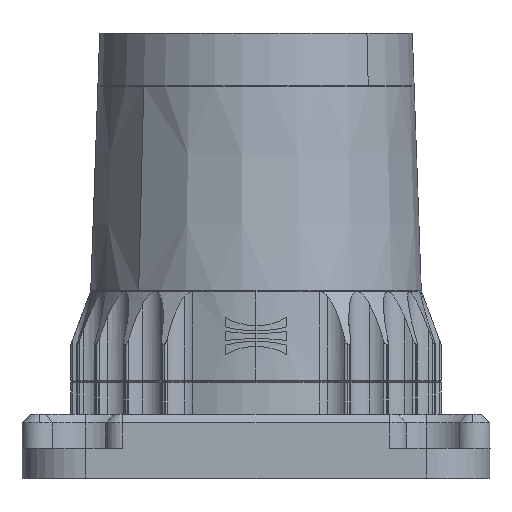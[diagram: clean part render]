
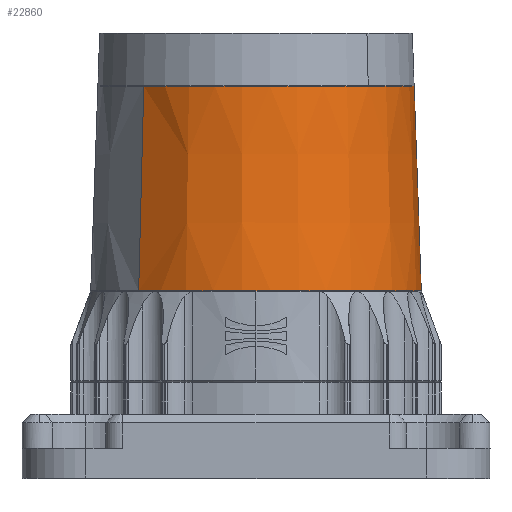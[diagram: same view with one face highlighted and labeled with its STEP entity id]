
A CAD part, top view. The second image highlights one B-rep face of the part: STEP entity #22860.
In plain terms, the highlighted conical face has half-angle 2 degrees and reference radius 37.078 mm.
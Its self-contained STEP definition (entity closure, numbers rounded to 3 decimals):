
#3613 = EDGE_LOOP ( 'NONE', ( #65491, #63338, #14755, #96408 ) ) ;
#4623 = EDGE_CURVE ( 'NONE', #34533, #70802, #98159, .T. ) ;
#7969 = CARTESIAN_POINT ( 'NONE',  ( 26.383, 69.66, -26.383 ) ) ;
#10118 = LINE ( 'NONE', #92764, #40207 ) ;
#10963 = DIRECTION ( 'NONE',  ( -0.707, 0., 0.707 ) ) ;
#11631 = DIRECTION ( 'NONE',  ( 0., -1., 0. ) ) ;
#12510 = CARTESIAN_POINT ( 'NONE',  ( -26.218, 76.35, 26.218 ) ) ;
#14755 = ORIENTED_EDGE ( 'NONE', *, *, #33578, .T. ) ;
#18351 = DIRECTION ( 'NONE',  ( 0.025, -0.999, -0.025 ) ) ;
#21771 = VECTOR ( 'NONE', #45532, 1000. ) ;
#22860 = ADVANCED_FACE ( 'NONE', ( #73559 ), #134535, .T. ) ;
#26308 = AXIS2_PLACEMENT_3D ( 'NONE', #34581, #44239, #73804 ) ;
#33578 = EDGE_CURVE ( 'NONE', #109324, #70802, #117943, .T. ) ;
#33947 = VERTEX_POINT ( 'NONE', #7969 ) ;
#34352 = AXIS2_PLACEMENT_3D ( 'NONE', #73422, #63823, #52836 ) ;
#34533 = VERTEX_POINT ( 'NONE', #72802 ) ;
#34581 = CARTESIAN_POINT ( 'NONE',  ( 0., 69.66, 0. ) ) ;
#35091 = CIRCLE ( 'NONE', #26308, 37.312 ) ;
#38465 = CARTESIAN_POINT ( 'NONE',  ( -26.383, 69.66, 26.383 ) ) ;
#39478 = CARTESIAN_POINT ( 'NONE',  ( -27.571, 21.565, 27.571 ) ) ;
#40207 = VECTOR ( 'NONE', #18351, 1000. ) ;
#43248 = EDGE_CURVE ( 'NONE', #33947, #34533, #10118, .T. ) ;
#44239 = DIRECTION ( 'NONE',  ( 0., 1., 0. ) ) ;
#45532 = DIRECTION ( 'NONE',  ( -0.025, -0.999, 0.025 ) ) ;
#52836 = DIRECTION ( 'NONE',  ( -0.707, 0., 0.707 ) ) ;
#63338 = ORIENTED_EDGE ( 'NONE', *, *, #126828, .F. ) ;
#63823 = DIRECTION ( 'NONE',  ( 0., -1., 0. ) ) ;
#65491 = ORIENTED_EDGE ( 'NONE', *, *, #43248, .F. ) ;
#70616 = AXIS2_PLACEMENT_3D ( 'NONE', #71537, #11631, #10963 ) ;
#70802 = VERTEX_POINT ( 'NONE', #39478 ) ;
#71537 = CARTESIAN_POINT ( 'NONE',  ( 0., 76.35, 0. ) ) ;
#72802 = CARTESIAN_POINT ( 'NONE',  ( 27.571, 21.565, -27.571 ) ) ;
#73422 = CARTESIAN_POINT ( 'NONE',  ( 0., 21.565, 0. ) ) ;
#73559 = FACE_OUTER_BOUND ( 'NONE', #3613, .T. ) ;
#73804 = DIRECTION ( 'NONE',  ( 0.707, 0., -0.707 ) ) ;
#92764 = CARTESIAN_POINT ( 'NONE',  ( 26.218, 76.35, -26.218 ) ) ;
#96408 = ORIENTED_EDGE ( 'NONE', *, *, #4623, .F. ) ;
#98159 = CIRCLE ( 'NONE', #34352, 38.991 ) ;
#109324 = VERTEX_POINT ( 'NONE', #38465 ) ;
#117943 = LINE ( 'NONE', #12510, #21771 ) ;
#126828 = EDGE_CURVE ( 'NONE', #109324, #33947, #35091, .T. ) ;
#134535 = CONICAL_SURFACE ( 'NONE', #70616, 37.078, 0.035 ) ;
